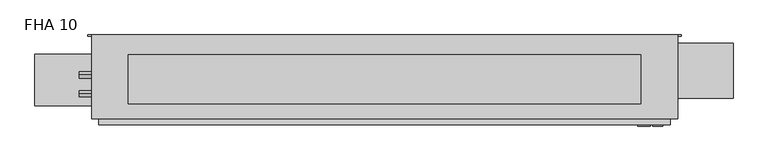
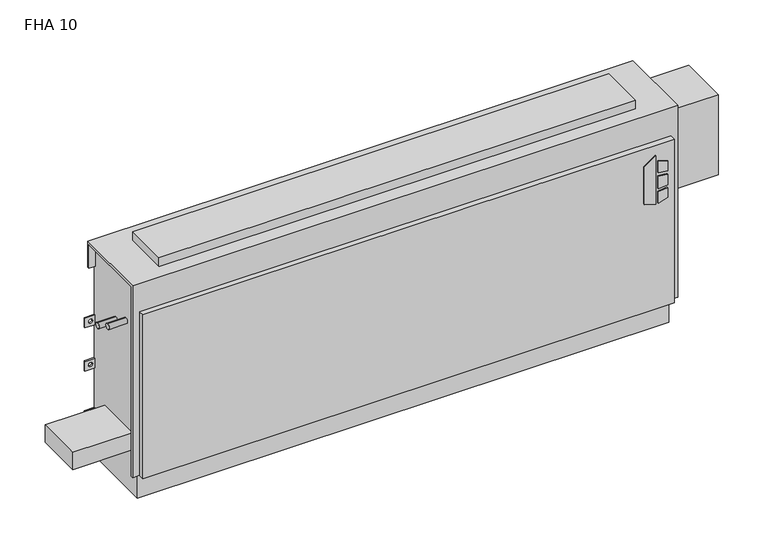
"""IFC4 building model written with IfcOpenShell, lengths in millimetres: proxy geometry, Vertical_Fan_Coil_Unit_-_FHA_-_IEC_-_2-Pipe_TS-FR_LH_2022 : FHA 10."""

from ifc_helpers import new_model, si_unit, point, frame, frame_2d, origin, place, context, project, spatial, polyline, circle_curve, trimmed, segment, composite_curve, outline, extrude, source, transform, mapped, element, save
from ifc_brep_helpers import plane_surface, revolved_surface, advanced_brep


def fha_10_04a492d7(model_context):
    return source(origin(), model_context, "Body", "SolidModel", [
        extrude(outline(polyline([(391.6086829, 804.9368862), (381.6606126, 837.1102728), (523.831537, 837.1102728), (500.8095309, 804.9368862), (391.6086829, 804.9368862)])), frame((0.0, 9.525, 0.0), z_axis=(0.0, 1.0, 0.0), x_axis=(0.0, 0.0, 1.0)), (0.0, 0.0, 1.0), 3.175),
        extrude(outline(polyline([(470.6079683, 843.8686058), (467.4055757, 869.95), (496.6344168, 869.95), (504.6988318, 843.8686058), (470.6079683, 843.8686058)])), frame((0.0, 9.525, 0.0), z_axis=(0.0, 1.0, 0.0), x_axis=(0.0, 0.0, 1.0)), (0.0, 0.0, 1.0), 3.175),
        extrude(outline(polyline([(418.7444414, 869.95), (415.0789404, 843.8686058), (381.6606126, 843.8686058), (390.2948498, 869.95), (418.7444414, 869.95)])), frame((0.0, 9.525, 0.0), z_axis=(0.0, 1.0, 0.0), x_axis=(0.0, 0.0, 1.0)), (0.0, 0.0, 1.0), 3.175),
        extrude(outline(polyline([(458.0596028, 869.95), (460.3414292, 843.8686058), (424.4038806, 843.8686058), (427.1451456, 869.95), (458.0596028, 869.95)])), frame((0.0, 9.525, 0.0), z_axis=(0.0, 1.0, 0.0), x_axis=(0.0, 0.0, 1.0)), (0.0, 0.0, 1.0), 3.175),
        extrude(outline(composite_curve([segment(trimmed(circle_curve(frame_2d((-647.7, 128.5875)), 9.525), [point((-657.225, 128.5875))], [point((-638.175, 128.5875))], False, "CARTESIAN"), True, "CONTINUOUS"), segment(trimmed(circle_curve(frame_2d((-647.7, 128.5875)), 9.525), [point((-638.175, 128.5875))], [point((-657.225, 128.5875))], False, "CARTESIAN"), True, "CONTINUOUS")], self_intersect=False)), frame((0.0, 0.0, 101.6), z_axis=(0.0, 0.0, 1.0), x_axis=(1.0, 0.0, 0.0)), (0.0, 0.0, 1.0), 25.4),
        extrude(outline(polyline([(-749.3, 61.9125), (-749.3, 195.2625), (-584.2, 195.2625), (-584.2, 61.9125), (-749.3, 61.9125)])), frame((0.0, 0.0, 127.0), z_axis=(0.0, 0.0, 1.0), x_axis=(1.0, 0.0, 0.0)), (0.0, 0.0, 1.0), 50.8),
        extrude(outline(polyline([(812.8, 193.675), (812.8, 66.675), (-508.0, 66.675), (-508.0, 193.675), (812.8, 193.675)])), frame((0.0, 0.0, 635.0), z_axis=(0.0, 0.0, 1.0), x_axis=(1.0, 0.0, 0.0)), (0.0, 0.0, 1.0), 25.4),
        extrude(outline(composite_curve([segment(trimmed(circle_curve(frame_2d((93.1926, 488.0102)), 7.9375), [point((93.1926, 495.9477))], [point((93.1926, 480.0727))], False, "CARTESIAN"), True, "CONTINUOUS"), segment(trimmed(circle_curve(frame_2d((93.1926, 488.0102)), 7.9375), [point((93.1926, 480.0727))], [point((93.1926, 495.9477))], False, "CARTESIAN"), True, "CONTINUOUS")], self_intersect=False)), frame((-635.0, 0.0, 0.0), z_axis=(1.0, 0.0, 0.0), x_axis=(0.0, 1.0, 0.0)), (0.0, 0.0, 1.0), 50.8),
        extrude(outline(composite_curve([segment(trimmed(circle_curve(frame_2d((141.3002, 461.3402)), 7.9375), [point((141.3002, 469.2777))], [point((141.3002, 453.4027))], False, "CARTESIAN"), True, "CONTINUOUS"), segment(trimmed(circle_curve(frame_2d((141.3002, 461.3402)), 7.9375), [point((141.3002, 453.4027))], [point((141.3002, 469.2777))], False, "CARTESIAN"), True, "CONTINUOUS")], self_intersect=False)), frame((-635.0, 0.0, 0.0), z_axis=(1.0, 0.0, 0.0), x_axis=(0.0, 1.0, 0.0)), (0.0, 0.0, 1.0), 50.8),
        extrude(outline(polyline([(1050.925, 223.266), (1050.925, 81.534), (889.0, 81.534), (889.0, 223.266), (1050.925, 223.266)])), frame((0.0, 0.0, 349.25), z_axis=(0.0, 0.0, 1.0), x_axis=(1.0, 0.0, 0.0)), (0.0, 0.0, 1.0), 234.95),
        advanced_brep(
        [(908.05, 244.475, 635.0), (-603.25, 244.475, 635.0), (-603.25, 28.575, 635.0), (908.05, 28.575, 635.0), (-584.2, 244.475, 0.0), (889.0, 244.475, 0.0), (889.0, 38.1, 0.0), (-584.2, 38.1, 0.0), (908.05, 244.475, 558.8), (889.0, 244.475, 558.8), (889.0, 244.475, 414.3375), (917.575, 244.475, 414.3375), (917.575, 244.475, 385.7625), (889.0, 244.475, 385.7625), (889.0, 244.475, 287.3375), (917.575, 244.475, 287.3375), (917.575, 244.475, 258.7625), (889.0, 244.475, 258.7625), (889.0, 244.475, 141.2875), (917.575, 244.475, 141.2875), (917.575, 244.475, 112.7125), (889.0, 244.475, 112.7125), (-584.2, 244.475, 112.7125), (-612.775, 244.475, 112.7125), (-612.775, 244.475, 141.2875), (-584.2, 244.475, 141.2875), (-584.2, 244.475, 258.7625), (-612.775, 244.475, 258.7625), (-612.775, 244.475, 287.3375), (-584.2, 244.475, 287.3375), (-584.2, 244.475, 385.7625), (-612.775, 244.475, 385.7625), (-612.775, 244.475, 414.3375), (-584.2, 244.475, 414.3375), (-584.2, 244.475, 558.8), (-603.25, 244.475, 558.8), (907.2626, 244.475, 127.0), (896.1374, 244.475, 127.0), (-591.3374, 244.475, 127.0), (-602.4626, 244.475, 127.0), (907.2626, 244.475, 273.05), (896.1374, 244.475, 273.05), (-591.3374, 244.475, 273.05), (-602.4626, 244.475, 273.05), (907.2626, 244.475, 400.05), (896.1374, 244.475, 400.05), (-591.3374, 244.475, 400.05), (-602.4626, 244.475, 400.05), (-603.25, 238.125, 558.8), (-603.25, 238.125, 628.65), (-603.25, 34.925, 628.65), (-603.25, 34.925, 73.025), (-603.25, 28.575, 73.025), (889.0, 12.7, 552.45), (-584.2, 12.7, 552.45), (-584.2, 12.7, 73.025), (889.0, 12.7, 73.025), (908.05, 28.575, 73.025), (908.05, 34.925, 73.025), (908.05, 34.925, 628.65), (908.05, 238.125, 628.65), (908.05, 238.125, 558.8), (-584.2, 28.575, 73.025), (-584.2, 28.575, 552.45), (889.0, 28.575, 552.45), (889.0, 28.575, 73.025), (-584.2, 34.925, 73.025), (-584.2, 38.1, 73.025), (889.0, 38.1, 73.025), (889.0, 34.925, 73.025), (889.0, 241.3, 112.7125), (889.0, 241.3, 141.2875), (889.0, 241.3, 258.7625), (889.0, 241.3, 287.3375), (889.0, 241.3, 385.7625), (889.0, 241.3, 414.3375), (889.0, 238.125, 558.8), (889.0, 238.125, 628.65), (889.0, 34.925, 628.65), (-584.2, 34.925, 628.65), (-584.2, 238.125, 628.65), (-584.2, 238.125, 558.8), (-584.2, 241.3, 414.3375), (-584.2, 241.3, 385.7625), (-584.2, 241.3, 287.3375), (-584.2, 241.3, 258.7625), (-584.2, 241.3, 141.2875), (-584.2, 241.3, 112.7125), (917.575, 241.3, 112.7125), (917.575, 241.3, 141.2875), (896.1374, 241.3, 127.0), (907.2626, 241.3, 127.0), (917.575, 241.3, 258.7625), (917.575, 241.3, 287.3375), (896.1374, 241.3, 273.05), (907.2626, 241.3, 273.05), (917.575, 241.3, 385.7625), (917.575, 241.3, 414.3375), (896.1374, 241.3, 400.05), (907.2626, 241.3, 400.05), (-612.775, 241.3, 141.2875), (-612.775, 241.3, 112.7125), (-602.4626, 241.3, 127.0), (-591.3374, 241.3, 127.0), (-612.775, 241.3, 287.3375), (-612.775, 241.3, 258.7625), (-602.4626, 241.3, 273.05), (-591.3374, 241.3, 273.05), (-612.775, 241.3, 414.3375), (-612.775, 241.3, 385.7625), (-602.4626, 241.3, 400.05), (-591.3374, 241.3, 400.05)],
        [
            (0, 1),
            (1, 2),
            (2, 3),
            (3, 0),
            (4, 5),
            (5, 6),
            (6, 7),
            (7, 4),
            (0, 8),
            (8, 9),
            (9, 10),
            (10, 11),
            (11, 12),
            (12, 13),
            (13, 14),
            (14, 15),
            (15, 16),
            (16, 17),
            (17, 18),
            (18, 19),
            (19, 20),
            (20, 21),
            (21, 5),
            (4, 22),
            (22, 23),
            (23, 24),
            (24, 25),
            (25, 26),
            (26, 27),
            (27, 28),
            (28, 29),
            (29, 30),
            (30, 31),
            (31, 32),
            (32, 33),
            (33, 34),
            (34, 35),
            (35, 1),
            (36, 37, circle_curve(frame((901.7, 244.475, 127.0), z_axis=(0.0, -1.0, 0.0), x_axis=(-1.0, 0.0, 0.0)), 5.5626)),
            (37, 36, circle_curve(frame((901.7, 244.475, 127.0), z_axis=(0.0, -1.0, 0.0), x_axis=(-1.0, 0.0, 0.0)), 5.5626)),
            (38, 39, circle_curve(frame((-596.9, 244.475, 127.0), z_axis=(0.0, -1.0, 0.0), x_axis=(-1.0, 0.0, 0.0)), 5.5626)),
            (39, 38, circle_curve(frame((-596.9, 244.475, 127.0), z_axis=(0.0, -1.0, 0.0), x_axis=(-1.0, 0.0, 0.0)), 5.5626)),
            (40, 41, circle_curve(frame((901.7, 244.475, 273.05), z_axis=(0.0, -1.0, 0.0), x_axis=(-1.0, 0.0, 0.0)), 5.5626)),
            (41, 40, circle_curve(frame((901.7, 244.475, 273.05), z_axis=(0.0, -1.0, 0.0), x_axis=(-1.0, 0.0, 0.0)), 5.5626)),
            (42, 43, circle_curve(frame((-596.9, 244.475, 273.05), z_axis=(0.0, -1.0, 0.0), x_axis=(-1.0, 0.0, 0.0)), 5.5626)),
            (43, 42, circle_curve(frame((-596.9, 244.475, 273.05), z_axis=(0.0, -1.0, 0.0), x_axis=(-1.0, 0.0, 0.0)), 5.5626)),
            (44, 45, circle_curve(frame((901.7, 244.475, 400.05), z_axis=(0.0, -1.0, 0.0), x_axis=(-1.0, 0.0, 0.0)), 5.5626)),
            (45, 44, circle_curve(frame((901.7, 244.475, 400.05), z_axis=(0.0, -1.0, 0.0), x_axis=(-1.0, 0.0, 0.0)), 5.5626)),
            (46, 47, circle_curve(frame((-596.9, 244.475, 400.05), z_axis=(0.0, -1.0, 0.0), x_axis=(-1.0, 0.0, 0.0)), 5.5626)),
            (47, 46, circle_curve(frame((-596.9, 244.475, 400.05), z_axis=(0.0, -1.0, 0.0), x_axis=(-1.0, 0.0, 0.0)), 5.5626)),
            (35, 48),
            (48, 49),
            (49, 50),
            (50, 51),
            (51, 52),
            (52, 2),
            (53, 54),
            (54, 55),
            (55, 56),
            (56, 53),
            (3, 57),
            (57, 58),
            (58, 59),
            (59, 60),
            (60, 61),
            (61, 8),
            (52, 62),
            (62, 63),
            (63, 64),
            (64, 65),
            (65, 57),
            (53, 64),
            (63, 54),
            (55, 62),
            (51, 66),
            (66, 67),
            (67, 68),
            (68, 69),
            (69, 58),
            (65, 56),
            (6, 68),
            (67, 7),
            (21, 70),
            (70, 71),
            (71, 18),
            (17, 72),
            (72, 73),
            (73, 14),
            (13, 74),
            (74, 75),
            (75, 10),
            (9, 76),
            (76, 77),
            (77, 78),
            (78, 69),
            (66, 79),
            (79, 80),
            (80, 81),
            (81, 34),
            (33, 82),
            (82, 83),
            (83, 30),
            (29, 84),
            (84, 85),
            (85, 26),
            (25, 86),
            (86, 87),
            (87, 22),
            (76, 61),
            (60, 77),
            (78, 59),
            (50, 79),
            (81, 48),
            (80, 49),
            (70, 88),
            (88, 89),
            (89, 71),
            (90, 91, circle_curve(frame((901.7, 241.3, 127.0), z_axis=(0.0, 1.0, 0.0), x_axis=(-1.0, 0.0, 0.0)), 5.5626)),
            (91, 90, circle_curve(frame((901.7, 241.3, 127.0), z_axis=(0.0, 1.0, 0.0), x_axis=(-1.0, 0.0, 0.0)), 5.5626)),
            (92, 93),
            (93, 73),
            (72, 92),
            (94, 95, circle_curve(frame((901.7, 241.3, 273.05), z_axis=(0.0, 1.0, 0.0), x_axis=(-1.0, 0.0, 0.0)), 5.5626)),
            (95, 94, circle_curve(frame((901.7, 241.3, 273.05), z_axis=(0.0, 1.0, 0.0), x_axis=(-1.0, 0.0, 0.0)), 5.5626)),
            (96, 97),
            (97, 75),
            (74, 96),
            (98, 99, circle_curve(frame((901.7, 241.3, 400.05), z_axis=(0.0, 1.0, 0.0), x_axis=(-1.0, 0.0, 0.0)), 5.5626)),
            (99, 98, circle_curve(frame((901.7, 241.3, 400.05), z_axis=(0.0, 1.0, 0.0), x_axis=(-1.0, 0.0, 0.0)), 5.5626)),
            (100, 101),
            (101, 87),
            (86, 100),
            (102, 103, circle_curve(frame((-596.9, 241.3, 127.0), z_axis=(0.0, 1.0, 0.0), x_axis=(-1.0, 0.0, 0.0)), 5.5626)),
            (103, 102, circle_curve(frame((-596.9, 241.3, 127.0), z_axis=(0.0, 1.0, 0.0), x_axis=(-1.0, 0.0, 0.0)), 5.5626)),
            (84, 104),
            (104, 105),
            (105, 85),
            (106, 107, circle_curve(frame((-596.9, 241.3, 273.05), z_axis=(0.0, 1.0, 0.0), x_axis=(-1.0, 0.0, 0.0)), 5.5626)),
            (107, 106, circle_curve(frame((-596.9, 241.3, 273.05), z_axis=(0.0, 1.0, 0.0), x_axis=(-1.0, 0.0, 0.0)), 5.5626)),
            (108, 109),
            (109, 83),
            (82, 108),
            (110, 111, circle_curve(frame((-596.9, 241.3, 400.05), z_axis=(0.0, 1.0, 0.0), x_axis=(-1.0, 0.0, 0.0)), 5.5626)),
            (111, 110, circle_curve(frame((-596.9, 241.3, 400.05), z_axis=(0.0, 1.0, 0.0), x_axis=(-1.0, 0.0, 0.0)), 5.5626)),
            (89, 19),
            (88, 20),
            (16, 92),
            (93, 15),
            (12, 96),
            (97, 11),
            (24, 100),
            (101, 23),
            (105, 27),
            (104, 28),
            (32, 108),
            (109, 31),
            (90, 37),
            (36, 91),
            (102, 39),
            (38, 103),
            (94, 41),
            (40, 95),
            (106, 43),
            (42, 107),
            (98, 45),
            (44, 99),
            (110, 47),
            (46, 111),
        ],
        [
            plane_surface(frame((-603.25, 244.475, 635.0), z_axis=(0.0, 0.0, 1.0), x_axis=(-1.0, 0.0, 0.0))),
            plane_surface(frame((-603.25, 244.475, 0.0), z_axis=(0.0, 0.0, -1.0), x_axis=(1.0, 0.0, 0.0))),
            plane_surface(frame((908.05, 244.475, 635.0), z_axis=(0.0, 1.0, 0.0), x_axis=(0.0, 0.0, -1.0))),
            plane_surface(frame((-603.25, 244.475, 635.0), z_axis=(-1.0, 0.0, 0.0), x_axis=(0.0, 0.0, -1.0))),
            plane_surface(frame((-603.25, 12.7, 635.0), z_axis=(0.0, -1.0, 0.0), x_axis=(0.0, 0.0, -1.0))),
            plane_surface(frame((908.05, 12.7, 635.0), z_axis=(1.0, 0.0, 0.0), x_axis=(0.0, 0.0, -1.0))),
            plane_surface(frame((-1060.45, 28.575, 635.0), z_axis=(0.0, -1.0, 0.0), x_axis=(1.0, 0.0, 0.0))),
            plane_surface(frame((-1060.45, 28.575, 552.45), z_axis=(0.0, 0.0, 1.0), x_axis=(1.0, 0.0, 0.0))),
            plane_surface(frame((-603.25, 12.7, 73.025), z_axis=(0.0, 0.0, -1.0), x_axis=(1.0, 0.0, 0.0))),
            plane_surface(frame((-603.25, 38.1, 73.025), z_axis=(0.0, -1.0, 0.0), x_axis=(1.0, 0.0, 0.0))),
            plane_surface(frame((889.0, 28.575, 73.025), z_axis=(1.0, 0.0, 0.0), x_axis=(0.0, -1.0, 0.0))),
            plane_surface(frame((-584.2, 28.575, 552.45), z_axis=(-1.0, 0.0, 0.0), x_axis=(0.0, -1.0, 0.0))),
            plane_surface(frame((889.0, 244.475, 0.0), z_axis=(1.0, 0.0, 0.0), x_axis=(0.0, -1.0, 0.0))),
            plane_surface(frame((-584.2, 244.475, 73.025), z_axis=(-1.0, 0.0, 0.0), x_axis=(0.0, -1.0, 0.0))),
            plane_surface(frame((889.0, 238.125, 628.65), z_axis=(0.0, -1.0, 0.0), x_axis=(1.0, 0.0, 0.0))),
            plane_surface(frame((889.0, 238.125, 558.8), z_axis=(0.0, 0.0, -1.0), x_axis=(1.0, 0.0, 0.0))),
            plane_surface(frame((889.0, 34.925, 73.025), z_axis=(0.0, 1.0, 0.0), x_axis=(1.0, 0.0, 0.0))),
            plane_surface(frame((889.0, 34.925, 628.65), z_axis=(0.0, 0.0, -1.0), x_axis=(1.0, 0.0, 0.0))),
            plane_surface(frame((-584.2, 34.925, 628.65), z_axis=(0.0, 1.0, 0.0), x_axis=(-1.0, 0.0, 0.0))),
            plane_surface(frame((-584.2, 244.475, 558.8), z_axis=(0.0, 0.0, -1.0), x_axis=(-1.0, 0.0, 0.0))),
            plane_surface(frame((-584.2, 238.125, 558.8), z_axis=(0.0, -1.0, 0.0), x_axis=(-1.0, 0.0, 0.0))),
            plane_surface(frame((-584.2, 238.125, 628.65), z_axis=(0.0, 0.0, -1.0), x_axis=(-1.0, 0.0, 0.0))),
            plane_surface(frame((917.575, 241.3, 141.2875), z_axis=(0.0, -1.0, 0.0), x_axis=(-1.0, 0.0, 0.0))),
            plane_surface(frame((889.0, 244.475, 141.2875), z_axis=(0.0, 0.0, 1.0), x_axis=(0.0, -1.0, 0.0))),
            plane_surface(frame((917.575, 244.475, 141.2875), z_axis=(1.0, 0.0, 0.0), x_axis=(0.0, -1.0, 0.0))),
            plane_surface(frame((917.575, 244.475, 112.7125), z_axis=(0.0, 0.0, -1.0), x_axis=(0.0, -1.0, 0.0))),
            plane_surface(frame((917.575, 244.475, 258.7625), z_axis=(0.0, 0.0, -1.0), x_axis=(0.0, -1.0, 0.0))),
            plane_surface(frame((889.0, 244.475, 287.3375), z_axis=(0.0, 0.0, 1.0), x_axis=(0.0, -1.0, 0.0))),
            plane_surface(frame((917.575, 244.475, 287.3375), z_axis=(1.0, 0.0, 0.0), x_axis=(0.0, -1.0, 0.0))),
            plane_surface(frame((917.575, 244.475, 385.7625), z_axis=(0.0, 0.0, -1.0), x_axis=(0.0, -1.0, 0.0))),
            plane_surface(frame((889.0, 244.475, 414.3375), z_axis=(0.0, 0.0, 1.0), x_axis=(0.0, -1.0, 0.0))),
            plane_surface(frame((917.575, 244.475, 414.3375), z_axis=(1.0, 0.0, 0.0), x_axis=(0.0, -1.0, 0.0))),
            plane_surface(frame((-612.775, 244.475, 141.2875), z_axis=(0.0, 0.0, 1.0), x_axis=(0.0, -1.0, 0.0))),
            plane_surface(frame((-584.2, 244.475, 112.7125), z_axis=(0.0, 0.0, -1.0), x_axis=(0.0, -1.0, 0.0))),
            plane_surface(frame((-612.775, 244.475, 112.7125), z_axis=(-1.0, 0.0, 0.0), x_axis=(0.0, -1.0, 0.0))),
            plane_surface(frame((-584.2, 244.475, 258.7625), z_axis=(0.0, 0.0, -1.0), x_axis=(0.0, -1.0, 0.0))),
            plane_surface(frame((-612.775, 244.475, 258.7625), z_axis=(-1.0, 0.0, 0.0), x_axis=(0.0, -1.0, 0.0))),
            plane_surface(frame((-612.775, 244.475, 287.3375), z_axis=(0.0, 0.0, 1.0), x_axis=(0.0, -1.0, 0.0))),
            plane_surface(frame((-612.775, 244.475, 414.3375), z_axis=(0.0, 0.0, 1.0), x_axis=(0.0, -1.0, 0.0))),
            plane_surface(frame((-584.2, 244.475, 385.7625), z_axis=(0.0, 0.0, -1.0), x_axis=(0.0, -1.0, 0.0))),
            plane_surface(frame((-612.775, 244.475, 385.7625), z_axis=(-1.0, 0.0, 0.0), x_axis=(0.0, -1.0, 0.0))),
            revolved_surface(polyline([(896.1374000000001, 241.3, 127.0), (896.1374000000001, 244.475, 127.0)]), (901.7, 244.475, 127.0), (0.0, -1.0, 0.0)),
            revolved_surface(polyline([(-602.4626, 241.3, 127.0), (-602.4626, 244.475, 127.0)]), (-596.9, 244.475, 127.0), (0.0, -1.0, 0.0)),
            revolved_surface(polyline([(896.1374000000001, 241.3, 273.05), (896.1374000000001, 244.475, 273.05)]), (901.7, 244.475, 273.05), (0.0, -1.0, 0.0)),
            revolved_surface(polyline([(-602.4626, 241.3, 273.05), (-602.4626, 244.475, 273.05)]), (-596.9, 244.475, 273.05), (0.0, -1.0, 0.0)),
            revolved_surface(polyline([(896.1374000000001, 241.3, 400.05), (896.1374000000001, 244.475, 400.05)]), (901.7, 244.475, 400.05), (0.0, -1.0, 0.0)),
            revolved_surface(polyline([(-602.4626, 241.3, 400.05), (-602.4626, 244.475, 400.05)]), (-596.9, 244.475, 400.05), (0.0, -1.0, 0.0)),
        ],
        [
            (0, [[1, 2, 3, 4]]),
            (1, [[5, 6, 7, 8]]),
            (2, [[-1, 9, 10, 11, 12, 13, 14, 15, 16, 17, 18, 19, 20, 21, 22, 23, -5, 24, 25, 26, 27, 28, 29, 30, 31, 32, 33, 34, 35, 36, 37, 38], [39, 40], [41, 42], [43, 44], [45, 46], [47, 48], [49, 50]]),
            (3, [[-2, -38, 51, 52, 53, 54, 55, 56]]),
            (4, [[57, 58, 59, 60]]),
            (5, [[-4, 61, 62, 63, 64, 65, 66, -9]]),
            (6, [[-3, -56, 67, 68, 69, 70, 71, -61]]),
            (7, [[-57, 72, -69, 73]]),
            (8, [[-59, 74, -67, -55, 75, 76, 77, 78, 79, -62, -71, 80]]),
            (9, [[-7, 81, -77, 82]]),
            (10, [[-70, -72, -60, -80]]),
            (11, [[-68, -74, -58, -73]]),
            (12, [[-6, -23, 83, 84, 85, -19, 86, 87, 88, -15, 89, 90, 91, -11, 92, 93, 94, 95, -78, -81]]),
            (13, [[-8, -82, -76, 96, 97, 98, 99, -36, 100, 101, 102, -32, 103, 104, 105, -28, 106, 107, 108, -24]]),
            (14, [[-93, 109, -65, 110]]),
            (15, [[-92, -10, -66, -109]]),
            (16, [[-95, 111, -63, -79]]),
            (17, [[-94, -110, -64, -111]]),
            (18, [[-96, -75, -54, 112]]),
            (19, [[-99, 113, -51, -37]]),
            (20, [[-98, 114, -52, -113]]),
            (21, [[-97, -112, -53, -114]]),
            (22, [[115, 116, 117, -84], [118, 119]]),
            (22, [[120, 121, -87, 122], [123, 124]]),
            (22, [[125, 126, -90, 127], [128, 129]]),
            (22, [[130, 131, -107, 132], [133, 134]]),
            (22, [[135, 136, 137, -104], [138, 139]]),
            (22, [[140, 141, -101, 142], [143, 144]]),
            (23, [[-117, 145, -20, -85]]),
            (24, [[-116, 146, -21, -145]]),
            (25, [[-115, -83, -22, -146]]),
            (26, [[-122, -86, -18, 147]]),
            (27, [[-121, 148, -16, -88]]),
            (28, [[-120, -147, -17, -148]]),
            (29, [[-127, -89, -14, 149]]),
            (30, [[-126, 150, -12, -91]]),
            (31, [[-125, -149, -13, -150]]),
            (32, [[-132, -106, -27, 151]]),
            (33, [[-131, 152, -25, -108]]),
            (34, [[-130, -151, -26, -152]]),
            (35, [[-137, 153, -29, -105]]),
            (36, [[-136, 154, -30, -153]]),
            (37, [[-135, -103, -31, -154]]),
            (38, [[-142, -100, -35, 155]]),
            (39, [[-141, 156, -33, -102]]),
            (40, [[-140, -155, -34, -156]]),
            (41, [[157, -39, 158, -118]]),
            (41, [[-157, -119, -158, -40]]),
            (42, [[159, -41, 160, -133]]),
            (42, [[-159, -134, -160, -42]]),
            (43, [[161, -43, 162, -123]]),
            (43, [[-161, -124, -162, -44]]),
            (44, [[163, -45, 164, -138]]),
            (44, [[-163, -139, -164, -46]]),
            (45, [[165, -47, 166, -128]]),
            (45, [[-165, -129, -166, -48]]),
            (46, [[167, -49, 168, -143]]),
            (46, [[-167, -144, -168, -50]]),
        ],
    ),
    ])


if __name__ == "__main__":
    model = new_model("IFC4")
    model_context = context("Model", 3, world=origin())
    ifc_project = project(units=[si_unit("LENGTHUNIT", "METRE", prefix="MILLI")], contexts=[model_context])
    site = spatial("IfcSite", under=ifc_project)
    building = spatial("IfcBuilding", under=site)
    placement = place(None, origin())
    fha_10_shape = fha_10_04a492d7(model_context)
    element("IfcBuildingElementProxy", 1, Name="Vertical_Fan_Coil_Unit_-_FHA_-_IEC_-_2-Pipe_TS-FR_LH_2022 : FHA 10", ObjectType="Vertical_Fan_Coil_Unit_-_FHA_-_IEC_-_2-Pipe_TS-FR_LH_2022 : FHA 10", at=placement, inside=building, context=model_context, shape_type="MappedRepresentation", body=[
        mapped(fha_10_shape, transform((0.0, 0.0, 0.0), x_axis=(1.0, 0.0, 0.0), y_axis=(0.0, 1.0, 0.0), z_axis=(0.0, 0.0, 1.0))),
    ])
    save(model, "model.ifc")
